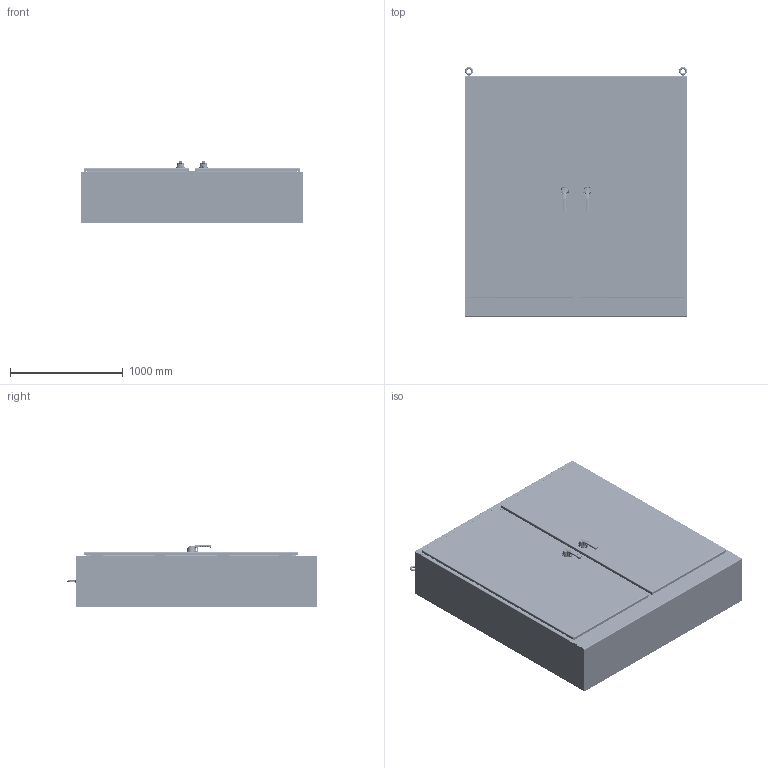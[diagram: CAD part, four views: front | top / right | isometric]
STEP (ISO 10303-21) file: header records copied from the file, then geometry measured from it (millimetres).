
FILE_DESCRIPTION (( 'STEP AP203' ), '1' );
FILE_NAME ('AU84X7818RSSLP.STEP', '2020-06-24T13:53:49', ( '' ), ( '' ), 'SwSTEP 2.0', 'SolidWorks 2016', '' );
FILE_SCHEMA (( 'CONFIG_CONTROL_DESIGN' ));
Length unit declared in the file: inch
Products named in the file (106): 60127102_60127102; 87780048; 89183195; 99414622_99414622; 22101014; 87567410; 99414350; 89183558; 89106810; 89183193; 89176246; 99404790_Config-Drawing; 99401300_99401300; 89183555; 89183199; 22159001_MSHXNUT 0.375-16-S-C; 22219035; 89179662_33 inch; 87543196; 26274019_26274019; 35124002_35124002; 89183554; 89179223; 87567421; 87782126; 35131001_35131001; 89183559; 87794223_87794223; 30101003; 89183556; 87540473_91420A424; 87567405_87567405; 89176700; 87573197; 89183198; 89106811; 60127199_60127199; 89081870; 89176509; 89183144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
Assembly tree (256 placements, depth 4):
  AU84X7818RSSLP
    89183561
      89183558
        89183556
        99402203_99402203
        99404790_Config-Drawing  x4
        87949743_AFTER WELD  x2
      89183560
        89183559
        99414350  x2
      89183555
      89183153
      89183186
      89183554
      89183135
        89183139
        89183144
        89176262  x2
        99414350_Config-Drawing  x8
        99411839_99411839  x4
      87949743_AFTER WELD
      87830040_AFTER WELD  x10
      22219034
      22219035  x2
      87553391  x2
      89176246  x2
      99401026_default  x10
      99414622_99414622  x10
      87573197  x2
      87932883  x2
      87794223_87794223  x2
      89081869
      89081870
      89183199  x2
      89183198  x2
    89183194
      89183193
        89183192
        89183229
        99414350  x3
        87751114_87751114  x2
        60127102_60127102  x4
      87567407_87567407
        87567419
        27155001
        87567421
        87566030
        87567410
      99401300_99401300  x2
      35130001_SI-HHMS 0.25-28x0.375x0.375-N  x2
      35124002_35124002
      87544899
      22101014
      35131001_35131001
      89106812_SETTING 2  x2
        89106810
        89106811
        99411273_99411273
      89176700
        26273019_26273019
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Bounding box: 1981.2 x 2219.58 x 556.96 mm (x, y, z)
Volume: 37589485.6 mm3; surface area: 28262059.4 mm2
Topology: 291 solids, 291 shells, 16454 faces, 40859 edges, 25233 vertices
Faces by surface type: plane 6859, cylinder 4394, bspline 2035, cone 1724, torus 1278, sphere 164
Entity records: 230060 total; most frequent: CARTESIAN_POINT 89524, ORIENTED_EDGE 26836, DIRECTION 24961, EDGE_CURVE 13418, AXIS2_PLACEMENT_3D 9254, VERTEX_POINT 8291, VECTOR 6453, LINE 6453
